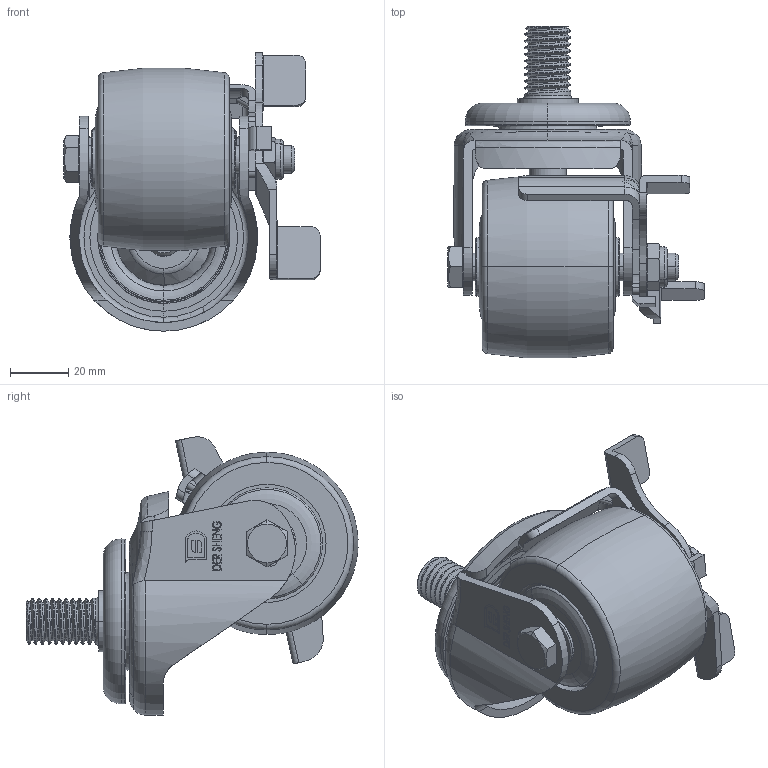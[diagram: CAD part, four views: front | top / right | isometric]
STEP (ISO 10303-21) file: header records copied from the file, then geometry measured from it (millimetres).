
FILE_DESCRIPTION (( 'STEP AP214' ), '1' );
FILE_NAME ('4110902054020-美國活煞尼龍輪.STEP', '2025-04-24T06:20:00', ( '' ), ( '' ), 'SwSTEP 2.0', 'SolidWorks 2019', '' );
FILE_SCHEMA (( 'AUTOMOTIVE_DESIGN' ));
Length unit declared in the file: metre
Products named in the file (1): 4110902054020-美國活煞尼龍輪
Bounding box: 88 x 114.09 x 95.69 mm (x, y, z)
Surface area: 52291.3 mm2 (no closed solid volume)
Topology: 0 solids, 13 shells, 370 faces, 1218 edges, 848 vertices
Faces by surface type: plane 150, cylinder 113, torus 61, bspline 27, cone 19
Entity records: 21665 total; most frequent: CARTESIAN_POINT 7426, ORIENTED_EDGE 2079, DIRECTION 1993, EDGE_CURVE 1216, VERTEX_POINT 848, AXIS2_PLACEMENT_3D 690, LINE 613, VECTOR 613
